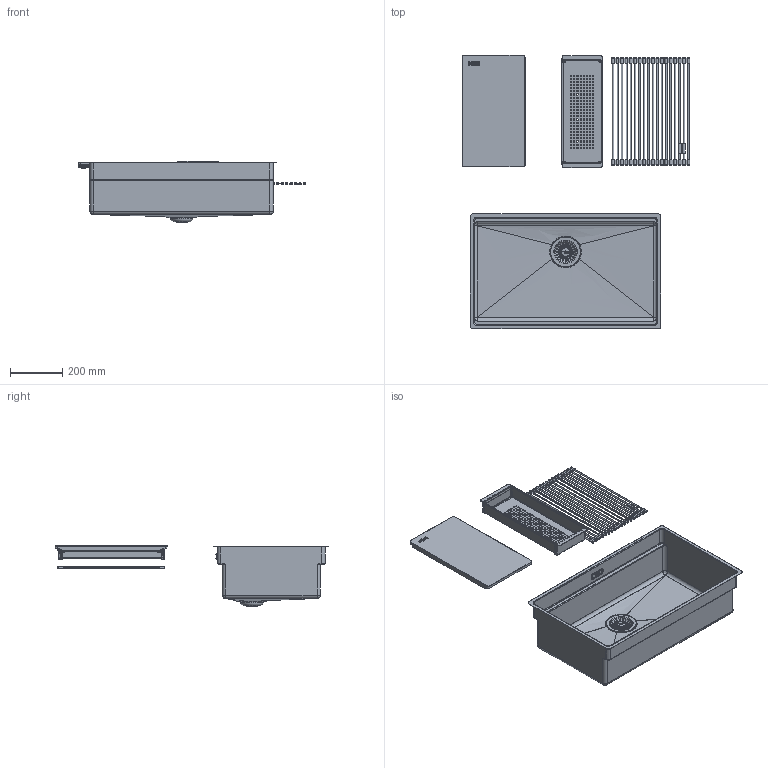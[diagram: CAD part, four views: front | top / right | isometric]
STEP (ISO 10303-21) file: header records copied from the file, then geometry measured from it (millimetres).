
FILE_DESCRIPTION(/* description */ (''),/* implementation_level */ '2;1');
FILE_NAME(/* name */ '3D001_Sinks_Box-Pro_BXX-PRO-210-110-70',/* time_stamp */ '2026-07-02T11:12:12+02:00',/* author */ (''),/* organization */ (''),/* preprocessor_version */ 'ST-DEVELOPER v19.2',/* originating_system */ 'Rhino 8.31',/* authorisation */ '');
FILE_SCHEMA (('CONFIG_CONTROL_DESIGN'));
Products named in the file (11): Document; OVERFLOW; 20287093_iam_000; 20287095_ipt_000; 20111975_IPT_000; ROLLMAT; 20116789_IPT_000; STRAINER_BOWL; 20116746_IPT_000; 20116745_IPT_000; 20110328_IPT_000
Bounding box: 870.31 x 1048.1 x 234.72 mm (x, y, z)
Volume: 2355458.8 mm3; surface area: 2305132.2 mm2
Topology: 48 solids, 55 shells, 5431 faces, 14982 edges, 9697 vertices
Faces by surface type: plane 2743, cylinder 1751, bspline 937
Full cylindrical faces by diameter (mm): 3.9 x4, 4 x8, 4.8 x18, 5 x12, 5.05 x4, 5.994 x1, 6 x57, 6.2 x1, 8 x1, 11 x1, 12.6 x1, 13.743 x1, 25 x1, 31 x1, 47 x1, 84 x1, 89 x1
Entity records: 193713 total; most frequent: CARTESIAN_POINT 87334, ORIENTED_EDGE 25822, EDGE_CURVE 12987, DIRECTION 12927, B_SPLINE_CURVE_WITH_KNOTS 8520, VERTEX_POINT 8470, AXIS2_PLACEMENT_3D 8450, EDGE_LOOP 5259
